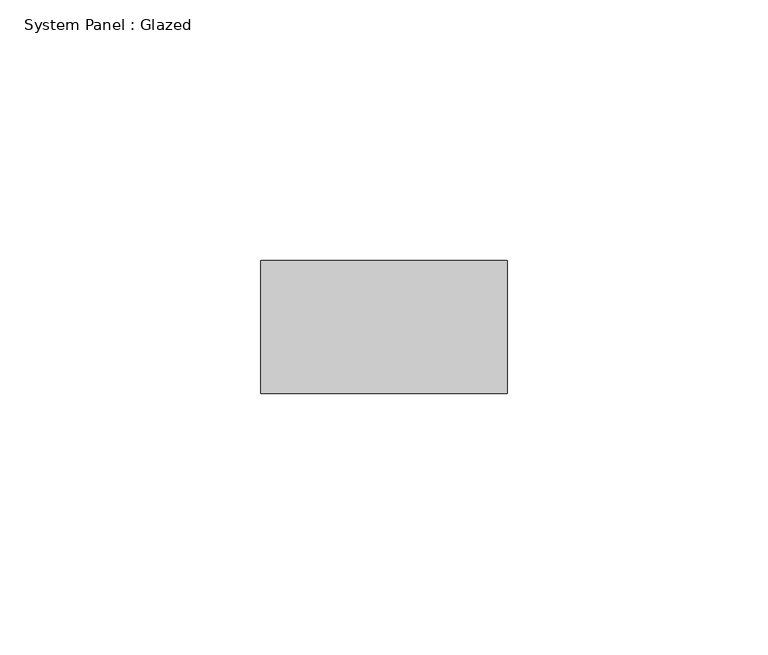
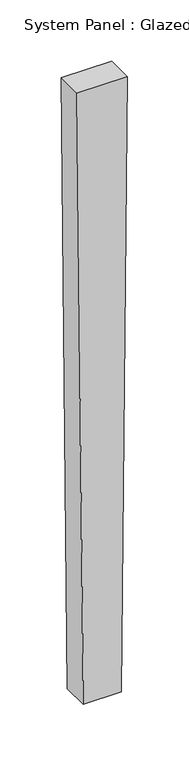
"""IFC4 building model written with IfcOpenShell, lengths in millimetres: plate geometry, System Panel : Glazed."""

from ifc_helpers import new_model, si_unit, frame, origin, place, context, project, spatial, polyline, outline, extrude, source, transform, mapped, element, save


def system_panel_glazed_016bef2d(model_context):
    return source(origin(), model_context, "Body", "SweptSolid", [
        extrude(outline(polyline([(0.0, -17.8934544), (0.0, 17.8934544), (609.573489, 23.5786596), (609.573489, -23.5786596), (0.0, -17.8934544)])), frame((0.0, -44.45, 0.0), z_axis=(0.0, 1.0, 0.0), x_axis=(0.0, 0.0, 1.0)), (0.0, 0.0, 1.0), 25.4),
    ])


if __name__ == "__main__":
    model = new_model("IFC4")
    model_context = context("Model", 3, world=origin())
    ifc_project = project(units=[si_unit("LENGTHUNIT", "METRE", prefix="MILLI")], contexts=[model_context])
    site = spatial("IfcSite", under=ifc_project)
    building = spatial("IfcBuilding", under=site)
    placement = place(None, origin())
    system_panel_glazed_shape = system_panel_glazed_016bef2d(model_context)
    element("IfcPlate", 1, ObjectType="System Panel : Glazed", at=placement, inside=building, context=model_context, shape_type="MappedRepresentation", body=[
        mapped(system_panel_glazed_shape, transform((0.0, 0.0, 0.0), x_axis=(1.0, 0.0, 0.0), y_axis=(0.0, 1.0, 0.0), z_axis=(0.0, 0.0, 1.0))),
    ])
    save(model, "model.ifc")
